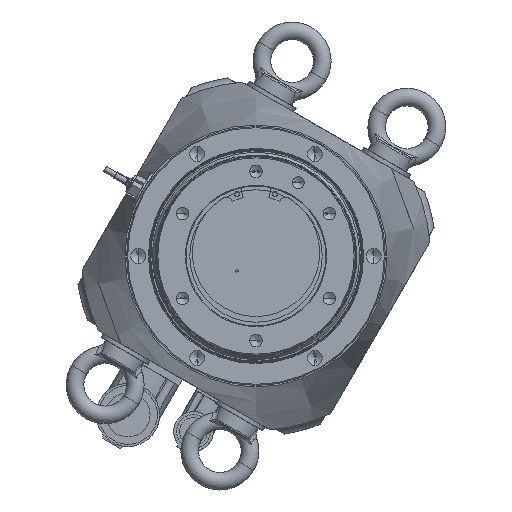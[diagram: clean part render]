
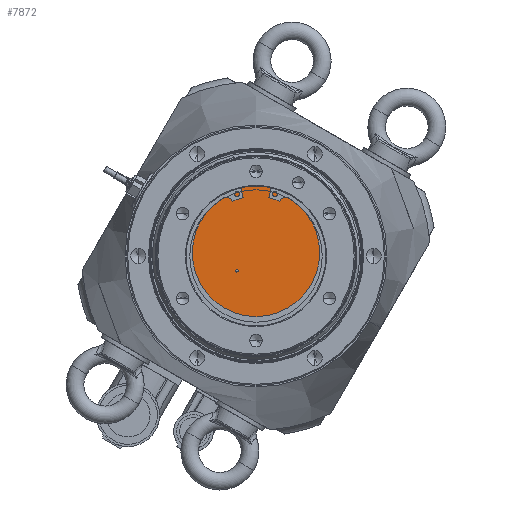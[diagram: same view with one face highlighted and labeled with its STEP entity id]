
A CAD part, front view. The second image highlights one B-rep face of the part: STEP entity #7872.
In plain terms, the highlighted planar face has unit normal (0, -1, 0).
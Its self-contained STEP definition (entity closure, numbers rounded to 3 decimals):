
#1079 = DIRECTION ( 'NONE',  ( 0., 0., 1. ) ) ;
#2706 = AXIS2_PLACEMENT_3D ( 'NONE', #7130, #28404, #10177 ) ;
#4520 = ORIENTED_EDGE ( 'NONE', *, *, #16378, .F. ) ;
#5260 = DIRECTION ( 'NONE',  ( 0., 1., 0. ) ) ;
#5559 = CARTESIAN_POINT ( 'NONE',  ( 42.239, -290.221, 125.416 ) ) ;
#7130 = CARTESIAN_POINT ( 'NONE',  ( 55.209, -290.221, 134.409 ) ) ;
#7872 = ADVANCED_FACE ( 'NONE', ( #8171, #31532 ), #38636, .F. ) ;
#8171 = FACE_OUTER_BOUND ( 'NONE', #13695, .T. ) ;
#8415 = CARTESIAN_POINT ( 'NONE',  ( 42.239, -290.221, 124.416 ) ) ;
#8675 = CIRCLE ( 'NONE', #14731, 47.5 ) ;
#8747 = VERTEX_POINT ( 'NONE', #5559 ) ;
#9094 = EDGE_LOOP ( 'NONE', ( #11976, #11770 ) ) ;
#10177 = DIRECTION ( 'NONE',  ( 0., 0., 1. ) ) ;
#11494 = DIRECTION ( 'NONE',  ( 0., 0., 1. ) ) ;
#11770 = ORIENTED_EDGE ( 'NONE', *, *, #37286, .T. ) ;
#11976 = ORIENTED_EDGE ( 'NONE', *, *, #18716, .T. ) ;
#13695 = EDGE_LOOP ( 'NONE', ( #37229, #4520 ) ) ;
#14731 = AXIS2_PLACEMENT_3D ( 'NONE', #35691, #17478, #38741 ) ;
#14944 = AXIS2_PLACEMENT_3D ( 'NONE', #20442, #5260, #26526 ) ;
#16378 = EDGE_CURVE ( 'NONE', #17482, #28039, #31352, .T. ) ;
#17478 = DIRECTION ( 'NONE',  ( 0., 1., 0. ) ) ;
#17482 = VERTEX_POINT ( 'NONE', #39194 ) ;
#18716 = EDGE_CURVE ( 'NONE', #34614, #8747, #39262, .T. ) ;
#19107 = CARTESIAN_POINT ( 'NONE',  ( 42.239, -290.221, 123.416 ) ) ;
#19312 = DIRECTION ( 'NONE',  ( 0., 1., 0. ) ) ;
#20442 = CARTESIAN_POINT ( 'NONE',  ( 55.209, -290.221, 134.409 ) ) ;
#24877 = CIRCLE ( 'NONE', #29266, 1. ) ;
#25718 = EDGE_CURVE ( 'NONE', #28039, #17482, #8675, .T. ) ;
#26526 = DIRECTION ( 'NONE',  ( 0., 0., 1. ) ) ;
#27198 = AXIS2_PLACEMENT_3D ( 'NONE', #8415, #29736, #11494 ) ;
#27447 = CARTESIAN_POINT ( 'NONE',  ( 55.209, -290.221, 86.909 ) ) ;
#28039 = VERTEX_POINT ( 'NONE', #27447 ) ;
#28404 = DIRECTION ( 'NONE',  ( 0., 1., 0. ) ) ;
#29266 = AXIS2_PLACEMENT_3D ( 'NONE', #37503, #19312, #1079 ) ;
#29736 = DIRECTION ( 'NONE',  ( 0., 1., 0. ) ) ;
#31352 = CIRCLE ( 'NONE', #2706, 47.5 ) ;
#31532 = FACE_BOUND ( 'NONE', #9094, .T. ) ;
#34614 = VERTEX_POINT ( 'NONE', #19107 ) ;
#35691 = CARTESIAN_POINT ( 'NONE',  ( 55.209, -290.221, 134.409 ) ) ;
#37229 = ORIENTED_EDGE ( 'NONE', *, *, #25718, .F. ) ;
#37286 = EDGE_CURVE ( 'NONE', #8747, #34614, #24877, .T. ) ;
#37503 = CARTESIAN_POINT ( 'NONE',  ( 42.239, -290.221, 124.416 ) ) ;
#38636 = PLANE ( 'NONE',  #14944 ) ;
#38741 = DIRECTION ( 'NONE',  ( 0., 0., 1. ) ) ;
#39194 = CARTESIAN_POINT ( 'NONE',  ( 55.209, -290.221, 181.909 ) ) ;
#39262 = CIRCLE ( 'NONE', #27198, 1. ) ;
